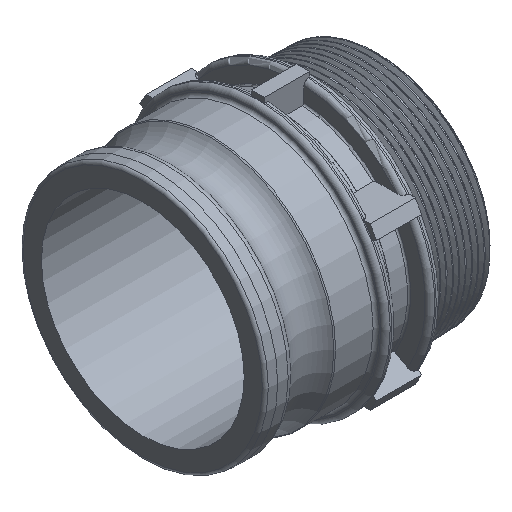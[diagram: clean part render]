
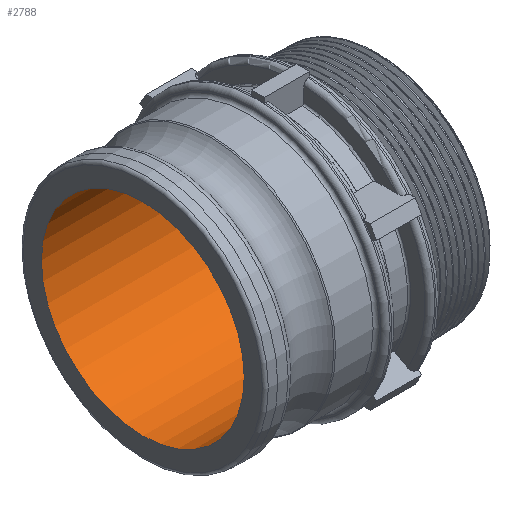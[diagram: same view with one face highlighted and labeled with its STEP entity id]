
A CAD part, isometric view. The second image highlights one B-rep face of the part: STEP entity #2788.
In plain terms, the highlighted cylindrical face has radius 49.149 mm (diameter 98.298 mm), a full revolution.
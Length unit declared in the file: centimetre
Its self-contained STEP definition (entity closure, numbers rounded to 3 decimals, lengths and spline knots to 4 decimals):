
#446=CYLINDRICAL_SURFACE('',#577,4.9149);
#492=CIRCLE('',#551,4.9149);
#508=CIRCLE('',#578,4.9149);
#551=AXIS2_PLACEMENT_3D('',#27974,#692,#693);
#577=AXIS2_PLACEMENT_3D('',#28773,#810,#811);
#578=AXIS2_PLACEMENT_3D('',#28774,#812,#813);
#692=DIRECTION('',(1.,0.,0.));
#693=DIRECTION('',(0.,0.,-4.915));
#810=DIRECTION('',(1.,0.,0.));
#811=DIRECTION('',(0.,0.,-4.915));
#812=DIRECTION('',(-1.,0.,0.));
#813=DIRECTION('',(0.,0.,-4.915));
#1090=VERTEX_POINT('',#27975);
#1199=VERTEX_POINT('',#28775);
#1438=EDGE_CURVE('',#1090,#1090,#492,.T.);
#1565=EDGE_CURVE('',#1199,#1199,#508,.T.);
#1956=ORIENTED_EDGE('',*,*,#1438,.F.);
#1957=ORIENTED_EDGE('',*,*,#1565,.F.);
#2500=EDGE_LOOP('',(#1956));
#2501=EDGE_LOOP('',(#1957));
#2647=FACE_BOUND('',#2500,.T.);
#2648=FACE_BOUND('',#2501,.T.);
#2788=ADVANCED_FACE('',(#2647,#2648),#446,.F.);
#27974=CARTESIAN_POINT('',(0.,0.,0.));
#27975=CARTESIAN_POINT('',(0.,0.,
4.9149));
#28773=CARTESIAN_POINT('',(-13.8768,0.,0.));
#28774=CARTESIAN_POINT('',(11.4808,0.,0.));
#28775=CARTESIAN_POINT('',(11.4808,0.,4.9149));
